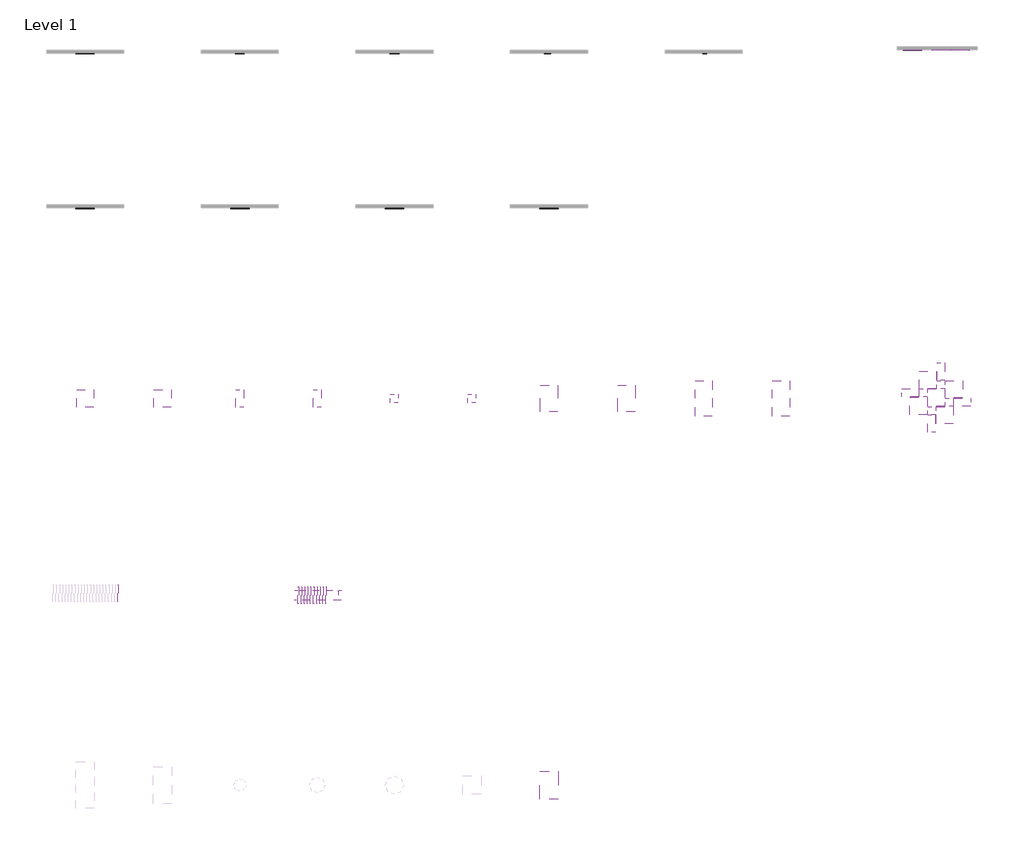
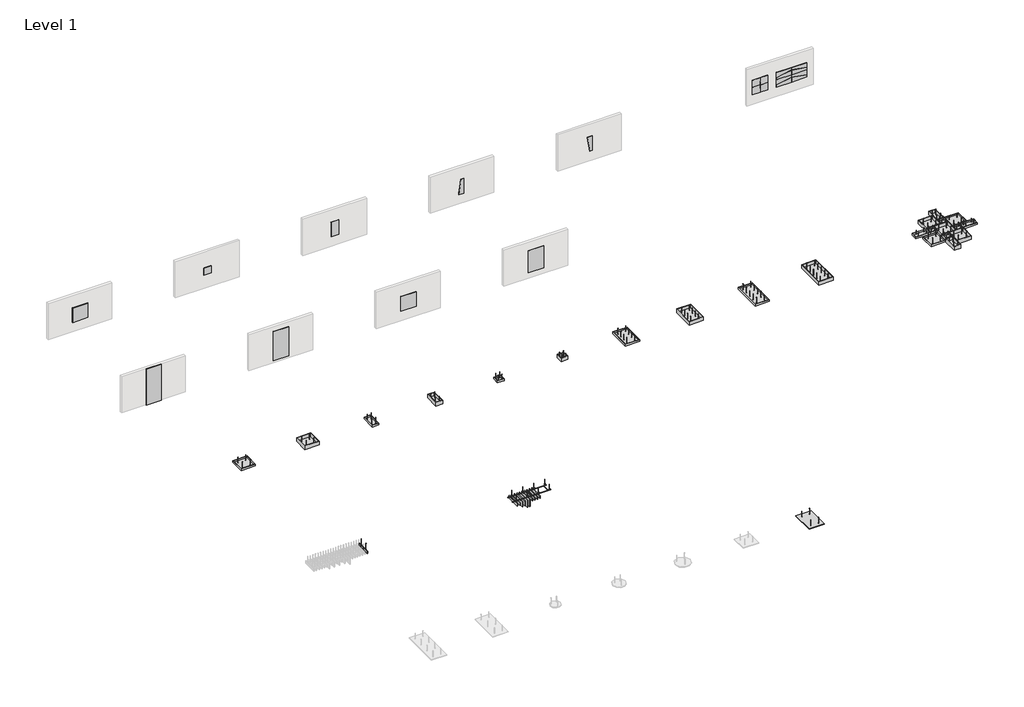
# One storey, part 2 of 2: 57 proxies.
"""IFC4 building model written with IfcOpenShell, lengths in millimetres."""

from ifc_helpers import new_model, si_unit, origin, place, context, project, spatial, transform, mapped, element, save
from components import specialty_equipment_2f9c71bf, one_72121b87, freestyle_qs_1a5b652e, freestyle_r_68592092, freestyle_tl_5bec2b6c, freestyle_tr_f36e938a, l1_61a87858, l1_92acadb2, l2_f4ee8ea0, m1_293964e8, m1_c52b9d84, m2_2ed46d6e, owa_freestyle_baffle_freestyle_l_for_s3_43a2b04f, owa_freestyle_baffle_freestyle_l_for_s3_53db9574, owa_freestyle_baffle_freestyle_m_for_s3_c351b4da, owa_freestyle_baffle_freestyle_s_ccccea6c, owa_freestyle_baffle_freestyle_s_for_s3_476cd958, owa_freestyle_baffle_s3_mounting_system_owa_freestyle_baffle_da68aab5, owa_freestyle_baffle_s3_mounting_system_owa_freestyle_baffle_664c1bcd, owa_freestyle_baffle_s3_mounting_system_owa_freestyle_baffle_da7934dc, owa_freestyle_baffle_s3_mounting_system_owa_freestyle_baffle_053d8222, s1_047c2050, s1_dd011107, s2_c28525dc, xl1_91a5b90b, xl1_b52fa71d, xl2_f6d5a700, xxl1_c829c97f, xxl1_e1fdb5e4, xxl2_2bb92154, grande_378761da, grande_xl_f58ea504, plus_e1e81a9f

model = new_model("IFC4")

# Units and contexts
model_context = context("Model", 3, world=origin())
ifc_project = project(units=[si_unit("LENGTHUNIT", "METRE", prefix="MILLI")], contexts=[model_context])

# Site, building, storey
site = spatial("IfcSite", under=ifc_project)
building = spatial("IfcBuilding", under=site)
storey = spatial("IfcBuildingStorey", under=building, Name="Level 1", Elevation=0.0)

# Proxies
placement = place(None, origin())
specialty_equipment_shape = specialty_equipment_2f9c71bf(model_context)
element("IfcBuildingElementProxy", 1, Name="OWA Selecta : Selecta plus", ObjectType="OWA Selecta : Selecta plus", at=placement, inside=storey, context=model_context, shape_type="MappedRepresentation", body=[
    mapped(specialty_equipment_shape, transform((32612.2416021, -19326.8850129, 2850.0), x_axis=(0.0, -1.0, 0.0), y_axis=(-1.0, 0.0, 0.0), z_axis=(0.0, 0.0, -1.0))),
])
one_shape = one_72121b87(model_context)
element("IfcBuildingElementProxy", 2, Name="OWA FreeStyle wall absorber : FreeStyle Q", ObjectType="OWA FreeStyle wall absorber : FreeStyle Q", at=placement, inside=storey, context=model_context, shape_type="MappedRepresentation", body=[
    mapped(one_shape, transform((3045.7416021, 28426.6149871, 1400.0), x_axis=(1.0, 0.0, 0.0), y_axis=(0.0, 0.0, 1.0), z_axis=(0.0, -1.0, 0.0))),
])
freestyle_qs_shape = freestyle_qs_1a5b652e(model_context)
element("IfcBuildingElementProxy", 3, Name="OWA FreeStyle wall absorber : FreeStyle QS", ObjectType="OWA FreeStyle wall absorber : FreeStyle QS", at=placement, inside=storey, context=model_context, shape_type="MappedRepresentation", body=[
    mapped(freestyle_qs_shape, transform((13045.7416021, 28426.6149871, 1400.0), x_axis=(1.0, 0.0, 0.0), y_axis=(0.0, 0.0, 1.0), z_axis=(0.0, -1.0, 0.0))),
])
element("IfcBuildingElementProxy", 4, Name="OWA FreeStyle wall absorber : FreeStyle QS", ObjectType="OWA FreeStyle wall absorber : FreeStyle QS", at=placement, inside=storey, context=model_context, shape_type="MappedRepresentation", body=[
    mapped(freestyle_qs_shape, transform((56245.7416021, 28666.6149871, 1122.9604097), x_axis=(1.0, 0.0, 0.0), y_axis=(0.0, 0.0, 1.0), z_axis=(0.0, -1.0, 0.0))),
])
element("IfcBuildingElementProxy", 5, Name="OWA FreeStyle wall absorber : FreeStyle QS", ObjectType="OWA FreeStyle wall absorber : FreeStyle QS", at=placement, inside=storey, context=model_context, shape_type="MappedRepresentation", body=[
    mapped(freestyle_qs_shape, transform((55378.7416021, 28666.6149871, 1722.9604097), x_axis=(-1.0, 0.0, 0.0), y_axis=(0.0, 0.0, -1.0), z_axis=(0.0, -1.0, 0.0))),
])
element("IfcBuildingElementProxy", 6, Name="OWA FreeStyle wall absorber : FreeStyle QS", ObjectType="OWA FreeStyle wall absorber : FreeStyle QS", at=placement, inside=storey, context=model_context, shape_type="MappedRepresentation", body=[
    mapped(freestyle_qs_shape, transform((55978.7416021, 28666.6149871, 1122.9604097), x_axis=(-1.0, 0.0, 0.0), y_axis=(0.0, 0.0, -1.0), z_axis=(0.0, -1.0, 0.0))),
])
element("IfcBuildingElementProxy", 7, Name="OWA FreeStyle wall absorber : FreeStyle QS", ObjectType="OWA FreeStyle wall absorber : FreeStyle QS", at=placement, inside=storey, context=model_context, shape_type="MappedRepresentation", body=[
    mapped(freestyle_qs_shape, transform((56845.7416021, 28666.6149871, 1722.9604097), x_axis=(1.0, 0.0, 0.0), y_axis=(0.0, 0.0, 1.0), z_axis=(0.0, -1.0, 0.0))),
])
freestyle_r_shape = freestyle_r_68592092(model_context)
element("IfcBuildingElementProxy", 8, Name="OWA FreeStyle wall absorber : FreeStyle R", ObjectType="OWA FreeStyle wall absorber : FreeStyle R", at=placement, inside=storey, context=model_context, shape_type="MappedRepresentation", body=[
    mapped(freestyle_r_shape, transform((23045.7416021, 28426.6149871, 1400.0), x_axis=(1.0, 0.0, 0.0), y_axis=(0.0, 0.0, 1.0), z_axis=(0.0, -1.0, 0.0))),
])
freestyle_tl_shape = freestyle_tl_5bec2b6c(model_context)
element("IfcBuildingElementProxy", 9, Name="OWA FreeStyle wall absorber : FreeStyle TL", ObjectType="OWA FreeStyle wall absorber : FreeStyle TL", at=placement, inside=storey, context=model_context, shape_type="MappedRepresentation", body=[
    mapped(freestyle_tl_shape, transform((33045.7416021, 28426.6149871, 1400.0), x_axis=(1.0, 0.0, 0.0), y_axis=(0.0, 0.0, 1.0), z_axis=(0.0, -1.0, 0.0))),
])
element("IfcBuildingElementProxy", 10, Name="OWA FreeStyle wall absorber : FreeStyle TL", ObjectType="OWA FreeStyle wall absorber : FreeStyle TL", at=placement, inside=storey, context=model_context, shape_type="MappedRepresentation", body=[
    mapped(freestyle_tl_shape, transform((59192.2416021, 28666.6149871, 1059.123501), x_axis=(0.0, 0.0, -1.0), y_axis=(1.0, 0.0, 0.0), z_axis=(0.0, -1.0, 0.0))),
])
element("IfcBuildingElementProxy", 11, Name="OWA FreeStyle wall absorber : FreeStyle TL", ObjectType="OWA FreeStyle wall absorber : FreeStyle TL", at=placement, inside=storey, context=model_context, shape_type="MappedRepresentation", body=[
    mapped(freestyle_tl_shape, transform((59192.2416021, 28666.6149871, 2326.123501), x_axis=(0.0, 0.0, 1.0), y_axis=(-1.0, 0.0, 0.0), z_axis=(0.0, -1.0, 0.0))),
])
element("IfcBuildingElementProxy", 12, Name="OWA FreeStyle wall absorber : FreeStyle TL", ObjectType="OWA FreeStyle wall absorber : FreeStyle TL", at=placement, inside=storey, context=model_context, shape_type="MappedRepresentation", body=[
    mapped(freestyle_tl_shape, transform((59192.2416021, 28666.6149871, 1726.123501), x_axis=(0.0, 0.0, 1.0), y_axis=(-1.0, 0.0, 0.0), z_axis=(0.0, -1.0, 0.0))),
])
element("IfcBuildingElementProxy", 13, Name="OWA FreeStyle wall absorber : FreeStyle TL", ObjectType="OWA FreeStyle wall absorber : FreeStyle TL", at=placement, inside=storey, context=model_context, shape_type="MappedRepresentation", body=[
    mapped(freestyle_tl_shape, transform((59192.2416021, 28666.6149871, 459.123501), x_axis=(0.0, 0.0, -1.0), y_axis=(1.0, 0.0, 0.0), z_axis=(0.0, -1.0, 0.0))),
])
freestyle_tr_shape = freestyle_tr_f36e938a(model_context)
element("IfcBuildingElementProxy", 14, Name="OWA FreeStyle wall absorber : FreeStyle TR", ObjectType="OWA FreeStyle wall absorber : FreeStyle TR", at=placement, inside=storey, context=model_context, shape_type="MappedRepresentation", body=[
    mapped(freestyle_tr_shape, transform((43045.7416021, 28426.6149871, 1400.0), x_axis=(1.0, 0.0, 0.0), y_axis=(0.0, 0.0, 1.0), z_axis=(0.0, -1.0, 0.0))),
])
element("IfcBuildingElementProxy", 15, Name="OWA FreeStyle wall absorber : FreeStyle TR", ObjectType="OWA FreeStyle wall absorber : FreeStyle TR", at=placement, inside=storey, context=model_context, shape_type="MappedRepresentation", body=[
    mapped(freestyle_tr_shape, transform((57992.2416021, 28666.6149871, 559.123501), x_axis=(0.0, 0.0, -1.0), y_axis=(1.0, 0.0, 0.0), z_axis=(0.0, -1.0, 0.0))),
])
element("IfcBuildingElementProxy", 16, Name="OWA FreeStyle wall absorber : FreeStyle TR", ObjectType="OWA FreeStyle wall absorber : FreeStyle TR", at=placement, inside=storey, context=model_context, shape_type="MappedRepresentation", body=[
    mapped(freestyle_tr_shape, transform((57992.2416021, 28666.6149871, 2226.123501), x_axis=(0.0, 0.0, 1.0), y_axis=(-1.0, 0.0, 0.0), z_axis=(0.0, -1.0, 0.0))),
])
element("IfcBuildingElementProxy", 17, Name="OWA FreeStyle wall absorber : FreeStyle TR", ObjectType="OWA FreeStyle wall absorber : FreeStyle TR", at=placement, inside=storey, context=model_context, shape_type="MappedRepresentation", body=[
    mapped(freestyle_tr_shape, transform((57992.2416021, 28666.6149871, 1159.123501), x_axis=(0.0, 0.0, -1.0), y_axis=(1.0, 0.0, 0.0), z_axis=(0.0, -1.0, 0.0))),
])
element("IfcBuildingElementProxy", 18, Name="OWA FreeStyle wall absorber : FreeStyle TR", ObjectType="OWA FreeStyle wall absorber : FreeStyle TR", at=placement, inside=storey, context=model_context, shape_type="MappedRepresentation", body=[
    mapped(freestyle_tr_shape, transform((57992.2416021, 28666.6149871, 1626.123501), x_axis=(0.0, 0.0, 1.0), y_axis=(-1.0, 0.0, 0.0), z_axis=(0.0, -1.0, 0.0))),
])
l1_shape = l1_61a87858(model_context)
element("IfcBuildingElementProxy", 19, Name="OWA Corpus : L1", ObjectType="OWA Corpus : L1", at=placement, inside=storey, context=model_context, shape_type="MappedRepresentation", body=[
    mapped(l1_shape, transform((2612.2416021, 5673.1149871, 2850.0), x_axis=(0.0, -1.0, 0.0), y_axis=(-1.0, 0.0, 0.0), z_axis=(0.0, 0.0, -1.0))),
])
element("IfcBuildingElementProxy", 20, Name="OWA Corpus : L1", ObjectType="OWA Corpus : L1", at=placement, inside=storey, context=model_context, shape_type="MappedRepresentation", body=[
    mapped(l1_shape, transform((56507.2416021, 6060.1149871, 2850.0), x_axis=(0.0, 1.0, 0.0), y_axis=(1.0, 0.0, 0.0), z_axis=(0.0, 0.0, -1.0))),
])
l1_2_shape = l1_92acadb2(model_context)
element("IfcBuildingElementProxy", 21, Name="OWA Corpus : L1", ObjectType="OWA Corpus : L1", at=placement, inside=storey, context=model_context, shape_type="MappedRepresentation", body=[
    mapped(l1_2_shape, transform((58787.2416021, 7140.1149871, 2850.0), x_axis=(0.0, 1.0, 0.0), y_axis=(1.0, 0.0, 0.0), z_axis=(0.0, 0.0, -1.0))),
])
l2_shape = l2_f4ee8ea0(model_context)
element("IfcBuildingElementProxy", 22, Name="OWA Corpus : L2", ObjectType="OWA Corpus : L2", at=placement, inside=storey, context=model_context, shape_type="MappedRepresentation", body=[
    mapped(l2_shape, transform((7612.2416021, 5673.1149871, 2850.0), x_axis=(0.0, -1.0, 0.0), y_axis=(-1.0, 0.0, 0.0), z_axis=(0.0, 0.0, -1.0))),
])
element("IfcBuildingElementProxy", 23, Name="OWA Corpus : L2", ObjectType="OWA Corpus : L2", at=placement, inside=storey, context=model_context, shape_type="MappedRepresentation", body=[
    mapped(l2_shape, transform((57647.2416021, 6600.1149871, 2850.0), x_axis=(0.0, 1.0, 0.0), y_axis=(1.0, 0.0, 0.0), z_axis=(0.0, 0.0, -1.0))),
])
element("IfcBuildingElementProxy", 24, Name="OWA Corpus : L2", ObjectType="OWA Corpus : L2", at=placement, inside=storey, context=model_context, shape_type="MappedRepresentation", body=[
    mapped(l2_shape, transform((57107.2416021, 7740.1149871, 2850.0), x_axis=(0.0, 1.0, 0.0), y_axis=(1.0, 0.0, 0.0), z_axis=(0.0, 0.0, -1.0))),
])
element("IfcBuildingElementProxy", 25, Name="OWA Corpus : L2", ObjectType="OWA Corpus : L2", at=placement, inside=storey, context=model_context, shape_type="MappedRepresentation", body=[
    mapped(l2_shape, transform((58187.2416021, 5460.1149871, 2850.0), x_axis=(0.0, 1.0, 0.0), y_axis=(1.0, 0.0, 0.0), z_axis=(0.0, 0.0, -1.0))),
])
m1_shape = m1_293964e8(model_context)
element("IfcBuildingElementProxy", 26, Name="OWA Corpus : M1", ObjectType="OWA Corpus : M1", at=placement, inside=storey, context=model_context, shape_type="MappedRepresentation", body=[
    mapped(m1_shape, transform((12612.2416021, 5673.1149871, 2850.0), x_axis=(0.0, -1.0, 0.0), y_axis=(-1.0, 0.0, 0.0), z_axis=(0.0, 0.0, -1.0))),
])
m1_2_shape = m1_c52b9d84(model_context)
element("IfcBuildingElementProxy", 27, Name="OWA Corpus : M1", ObjectType="OWA Corpus : M1", at=placement, inside=storey, context=model_context, shape_type="MappedRepresentation", body=[
    mapped(m1_2_shape, transform((59760.7416021, 5866.6149871, 2850.0), x_axis=(1.0, 0.0, 0.0), y_axis=(0.0, -1.0, 0.0), z_axis=(0.0, 0.0, -1.0))),
])
element("IfcBuildingElementProxy", 28, Name="OWA Corpus : M1", ObjectType="OWA Corpus : M1", at=placement, inside=storey, context=model_context, shape_type="MappedRepresentation", body=[
    mapped(m1_2_shape, transform((55533.7416021, 6466.6149871, 2850.0), x_axis=(-1.0, 0.0, 0.0), y_axis=(0.0, 1.0, 0.0), z_axis=(0.0, 0.0, -1.0))),
])
m2_shape = m2_2ed46d6e(model_context)
element("IfcBuildingElementProxy", 29, Name="OWA Corpus : M2", ObjectType="OWA Corpus : M2", at=placement, inside=storey, context=model_context, shape_type="MappedRepresentation", body=[
    mapped(m2_shape, transform((17612.2416021, 5673.1149871, 2850.0), x_axis=(0.0, -1.0, 0.0), y_axis=(-1.0, 0.0, 0.0), z_axis=(0.0, 0.0, -1.0))),
])
element("IfcBuildingElementProxy", 30, Name="OWA Corpus : M2", ObjectType="OWA Corpus : M2", at=placement, inside=storey, context=model_context, shape_type="MappedRepresentation", body=[
    mapped(m2_shape, transform((57947.2416021, 8280.1149871, 2850.0), x_axis=(0.0, 1.0, 0.0), y_axis=(1.0, 0.0, 0.0), z_axis=(0.0, 0.0, -1.0))),
])
element("IfcBuildingElementProxy", 31, Name="OWA Corpus : M2", ObjectType="OWA Corpus : M2", at=placement, inside=storey, context=model_context, shape_type="MappedRepresentation", body=[
    mapped(m2_shape, transform((57347.2416021, 4920.1149871, 2850.0), x_axis=(0.0, 1.0, 0.0), y_axis=(1.0, 0.0, 0.0), z_axis=(0.0, 0.0, -1.0))),
])
owa_freestyle_baffle_freestyle_l_for_s3_shape = owa_freestyle_baffle_freestyle_l_for_s3_43a2b04f(model_context)
owa_freestyle_baffle_freestyle_l_for_s3_2_shape = owa_freestyle_baffle_freestyle_l_for_s3_53db9574(model_context)
element("IfcBuildingElementProxy", 32, Name="OWA FreeStyle Baffle : FreeStyle L for S3", ObjectType="OWA FreeStyle Baffle : FreeStyle L for S3", at=placement, inside=storey, context=model_context, shape_type="MappedRepresentation", body=[
    mapped(owa_freestyle_baffle_freestyle_l_for_s3_shape, transform((17193.0169617, -7052.6381787, 2350.0), x_axis=(0.0, -1.0, 0.0), y_axis=(-1.0, 0.0, 0.0), z_axis=(0.0, 0.0, -1.0))),
    mapped(owa_freestyle_baffle_freestyle_l_for_s3_2_shape, transform((17193.0169617, -7052.6381787, 2350.0), x_axis=(0.0, -1.0, 0.0), y_axis=(-1.0, 0.0, 0.0), z_axis=(0.0, 0.0, -1.0))),
])
element("IfcBuildingElementProxy", 33, Name="OWA FreeStyle Baffle : FreeStyle L for S3", ObjectType="OWA FreeStyle Baffle : FreeStyle L for S3", at=placement, inside=storey, context=model_context, shape_type="MappedRepresentation", body=[
    mapped(owa_freestyle_baffle_freestyle_l_for_s3_shape, transform((17393.0169617, -7052.6381787, 2350.0), x_axis=(0.0, -1.0, 0.0), y_axis=(-1.0, 0.0, 0.0), z_axis=(0.0, 0.0, -1.0))),
    mapped(owa_freestyle_baffle_freestyle_l_for_s3_2_shape, transform((17393.0169617, -7052.6381787, 2350.0), x_axis=(0.0, -1.0, 0.0), y_axis=(-1.0, 0.0, 0.0), z_axis=(0.0, 0.0, -1.0))),
])
owa_freestyle_baffle_freestyle_m_for_s3_shape = owa_freestyle_baffle_freestyle_m_for_s3_c351b4da(model_context)
element("IfcBuildingElementProxy", 34, Name="OWA FreeStyle Baffle : FreeStyle M for S3", ObjectType="OWA FreeStyle Baffle : FreeStyle M for S3", at=placement, inside=storey, context=model_context, shape_type="MappedRepresentation", body=[
    mapped(owa_freestyle_baffle_freestyle_l_for_s3_shape, transform((16793.0169617, -7052.6381787, 2350.0), x_axis=(0.0, -1.0, 0.0), y_axis=(-1.0, 0.0, 0.0), z_axis=(0.0, 0.0, -1.0))),
    mapped(owa_freestyle_baffle_freestyle_m_for_s3_shape, transform((16793.0169617, -7052.6381787, 2350.0), x_axis=(0.0, -1.0, 0.0), y_axis=(-1.0, 0.0, 0.0), z_axis=(0.0, 0.0, -1.0))),
])
element("IfcBuildingElementProxy", 35, Name="OWA FreeStyle Baffle : FreeStyle M for S3", ObjectType="OWA FreeStyle Baffle : FreeStyle M for S3", at=placement, inside=storey, context=model_context, shape_type="MappedRepresentation", body=[
    mapped(owa_freestyle_baffle_freestyle_l_for_s3_shape, transform((16993.0169617, -7052.6381787, 2350.0), x_axis=(0.0, -1.0, 0.0), y_axis=(-1.0, 0.0, 0.0), z_axis=(0.0, 0.0, -1.0))),
    mapped(owa_freestyle_baffle_freestyle_m_for_s3_shape, transform((16993.0169617, -7052.6381787, 2350.0), x_axis=(0.0, -1.0, 0.0), y_axis=(-1.0, 0.0, 0.0), z_axis=(0.0, 0.0, -1.0))),
])
owa_freestyle_baffle_freestyle_s_shape = owa_freestyle_baffle_freestyle_s_ccccea6c(model_context)
element("IfcBuildingElementProxy", 36, Name="OWA FreeStyle Baffle : FreeStyle S", ObjectType="OWA FreeStyle Baffle : FreeStyle S", at=placement, inside=storey, context=model_context, shape_type="MappedRepresentation", body=[
    mapped(owa_freestyle_baffle_freestyle_s_shape, transform((4735.8983303, -6039.8850129, 2850.0), x_axis=(0.0, 1.0, 0.0), y_axis=(1.0, 0.0, 0.0), z_axis=(0.0, 0.0, -1.0))),
])
owa_freestyle_baffle_freestyle_s_for_s3_shape = owa_freestyle_baffle_freestyle_s_for_s3_476cd958(model_context)
element("IfcBuildingElementProxy", 37, Name="OWA FreeStyle Baffle : FreeStyle S for S3", ObjectType="OWA FreeStyle Baffle : FreeStyle S for S3", at=placement, inside=storey, context=model_context, shape_type="MappedRepresentation", body=[
    mapped(owa_freestyle_baffle_freestyle_l_for_s3_shape, transform((16393.0169617, -7052.6381787, 2350.0), x_axis=(0.0, -1.0, 0.0), y_axis=(-1.0, 0.0, 0.0), z_axis=(0.0, 0.0, -1.0))),
    mapped(owa_freestyle_baffle_freestyle_s_for_s3_shape, transform((16393.0169617, -7052.6381787, 2350.0), x_axis=(0.0, -1.0, 0.0), y_axis=(-1.0, 0.0, 0.0), z_axis=(0.0, 0.0, -1.0))),
])
element("IfcBuildingElementProxy", 38, Name="OWA FreeStyle Baffle : FreeStyle S for S3", ObjectType="OWA FreeStyle Baffle : FreeStyle S for S3", at=placement, inside=storey, context=model_context, shape_type="MappedRepresentation", body=[
    mapped(owa_freestyle_baffle_freestyle_l_for_s3_shape, transform((16593.0169617, -7052.6381787, 2350.0), x_axis=(0.0, -1.0, 0.0), y_axis=(-1.0, 0.0, 0.0), z_axis=(0.0, 0.0, -1.0))),
    mapped(owa_freestyle_baffle_freestyle_s_for_s3_shape, transform((16593.0169617, -7052.6381787, 2350.0), x_axis=(0.0, -1.0, 0.0), y_axis=(-1.0, 0.0, 0.0), z_axis=(0.0, 0.0, -1.0))),
])
element("IfcBuildingElementProxy", 39, Name="OWA FreeStyle Baffle : FreeStyle S for S3", ObjectType="OWA FreeStyle Baffle : FreeStyle S for S3", at=placement, inside=storey, context=model_context, shape_type="MappedRepresentation", body=[
    mapped(owa_freestyle_baffle_freestyle_l_for_s3_shape, transform((17593.0169617, -7052.6381787, 2350.0), x_axis=(0.0, -1.0, 0.0), y_axis=(-1.0, 0.0, 0.0), z_axis=(0.0, 0.0, -1.0))),
    mapped(owa_freestyle_baffle_freestyle_s_for_s3_shape, transform((17593.0169617, -7052.6381787, 2350.0), x_axis=(0.0, -1.0, 0.0), y_axis=(-1.0, 0.0, 0.0), z_axis=(0.0, 0.0, -1.0))),
])
element("IfcBuildingElementProxy", 40, Name="OWA FreeStyle Baffle : FreeStyle S for S3", ObjectType="OWA FreeStyle Baffle : FreeStyle S for S3", at=placement, inside=storey, context=model_context, shape_type="MappedRepresentation", body=[
    mapped(owa_freestyle_baffle_freestyle_l_for_s3_shape, transform((17793.0169617, -7052.6381787, 2350.0), x_axis=(0.0, -1.0, 0.0), y_axis=(-1.0, 0.0, 0.0), z_axis=(0.0, 0.0, -1.0))),
    mapped(owa_freestyle_baffle_freestyle_s_for_s3_shape, transform((17793.0169617, -7052.6381787, 2350.0), x_axis=(0.0, -1.0, 0.0), y_axis=(-1.0, 0.0, 0.0), z_axis=(0.0, 0.0, -1.0))),
])
element("IfcBuildingElementProxy", 41, Name="OWA FreeStyle Baffle : FreeStyle S for S3", ObjectType="OWA FreeStyle Baffle : FreeStyle S for S3", at=placement, inside=storey, context=model_context, shape_type="MappedRepresentation", body=[
    mapped(owa_freestyle_baffle_freestyle_l_for_s3_shape, transform((17993.0169617, -7052.6381787, 2350.0), x_axis=(0.0, -1.0, 0.0), y_axis=(-1.0, 0.0, 0.0), z_axis=(0.0, 0.0, -1.0))),
    mapped(owa_freestyle_baffle_freestyle_s_for_s3_shape, transform((17993.0169617, -7052.6381787, 2350.0), x_axis=(0.0, -1.0, 0.0), y_axis=(-1.0, 0.0, 0.0), z_axis=(0.0, 0.0, -1.0))),
])
element("IfcBuildingElementProxy", 42, Name="OWA FreeStyle Baffle : FreeStyle S for S3", ObjectType="OWA FreeStyle Baffle : FreeStyle S for S3", at=placement, inside=storey, context=model_context, shape_type="MappedRepresentation", body=[
    mapped(owa_freestyle_baffle_freestyle_l_for_s3_shape, transform((18193.0169617, -7052.6381787, 2350.0), x_axis=(0.0, -1.0, 0.0), y_axis=(-1.0, 0.0, 0.0), z_axis=(0.0, 0.0, -1.0))),
    mapped(owa_freestyle_baffle_freestyle_s_for_s3_shape, transform((18193.0169617, -7052.6381787, 2350.0), x_axis=(0.0, -1.0, 0.0), y_axis=(-1.0, 0.0, 0.0), z_axis=(0.0, 0.0, -1.0))),
])
owa_freestyle_baffle_s3_mounting_system_owa_freestyle_baffle_shape = owa_freestyle_baffle_s3_mounting_system_owa_freestyle_baffle_da68aab5(model_context)
owa_freestyle_baffle_s3_mounting_system_owa_freestyle_baffle_2_shape = owa_freestyle_baffle_s3_mounting_system_owa_freestyle_baffle_664c1bcd(model_context)
owa_freestyle_baffle_s3_mounting_system_owa_freestyle_baffle_3_shape = owa_freestyle_baffle_s3_mounting_system_owa_freestyle_baffle_da7934dc(model_context)
owa_freestyle_baffle_s3_mounting_system_owa_freestyle_baffle_4_shape = owa_freestyle_baffle_s3_mounting_system_owa_freestyle_baffle_053d8222(model_context)
element("IfcBuildingElementProxy", 43, Name="OWA FreeStyle Baffle S3 Mounting System : OWA FreeStyle Baffle S3 Mounting System", ObjectType="OWA FreeStyle Baffle S3 Mounting System : OWA FreeStyle Baffle S3 Mounting System", at=placement, inside=storey, context=model_context, shape_type="MappedRepresentation", body=[
    mapped(owa_freestyle_baffle_s3_mounting_system_owa_freestyle_baffle_shape, transform((16156.1674652, -7052.6381787, 2850.0), x_axis=(0.0, -1.0, 0.0), y_axis=(-1.0, 0.0, 0.0), z_axis=(0.0, 0.0, -1.0))),
    mapped(owa_freestyle_baffle_s3_mounting_system_owa_freestyle_baffle_2_shape, transform((16156.1674652, -7052.6381787, 2850.0), x_axis=(0.0, -1.0, 0.0), y_axis=(-1.0, 0.0, 0.0), z_axis=(0.0, 0.0, -1.0))),
    mapped(owa_freestyle_baffle_s3_mounting_system_owa_freestyle_baffle_3_shape, transform((16156.1674652, -7052.6381787, 2850.0), x_axis=(0.0, -1.0, 0.0), y_axis=(-1.0, 0.0, 0.0), z_axis=(0.0, 0.0, -1.0))),
    mapped(owa_freestyle_baffle_s3_mounting_system_owa_freestyle_baffle_4_shape, transform((16156.1674652, -7052.6381787, 2850.0), x_axis=(0.0, -1.0, 0.0), y_axis=(-1.0, 0.0, 0.0), z_axis=(0.0, 0.0, -1.0))),
])
s1_shape = s1_047c2050(model_context)
element("IfcBuildingElementProxy", 44, Name="OWA Corpus : S1", ObjectType="OWA Corpus : S1", at=placement, inside=storey, context=model_context, shape_type="MappedRepresentation", body=[
    mapped(s1_shape, transform((22612.2416021, 5673.1149871, 2850.0), x_axis=(0.0, -1.0, 0.0), y_axis=(-1.0, 0.0, 0.0), z_axis=(0.0, 0.0, -1.0))),
])
s1_2_shape = s1_dd011107(model_context)
element("IfcBuildingElementProxy", 45, Name="OWA Corpus : S1", ObjectType="OWA Corpus : S1", at=placement, inside=storey, context=model_context, shape_type="MappedRepresentation", body=[
    mapped(s1_2_shape, transform((58053.7416021, 5866.6149871, 2850.0), x_axis=(-1.0, 0.0, 0.0), y_axis=(0.0, 1.0, 0.0), z_axis=(0.0, 0.0, -1.0))),
])
element("IfcBuildingElementProxy", 46, Name="OWA Corpus : S1", ObjectType="OWA Corpus : S1", at=placement, inside=storey, context=model_context, shape_type="MappedRepresentation", body=[
    mapped(s1_2_shape, transform((56807.2416021, 6900.1149871, 2850.0), x_axis=(0.0, 1.0, 0.0), y_axis=(1.0, 0.0, 0.0), z_axis=(0.0, 0.0, -1.0))),
])
element("IfcBuildingElementProxy", 47, Name="OWA Corpus : S1", ObjectType="OWA Corpus : S1", at=placement, inside=storey, context=model_context, shape_type="MappedRepresentation", body=[
    mapped(s1_2_shape, transform((57947.2416021, 7440.1149871, 2850.0), x_axis=(0.0, 1.0, 0.0), y_axis=(1.0, 0.0, 0.0), z_axis=(0.0, 0.0, -1.0))),
])
element("IfcBuildingElementProxy", 48, Name="OWA Corpus : S1", ObjectType="OWA Corpus : S1", at=placement, inside=storey, context=model_context, shape_type="MappedRepresentation", body=[
    mapped(s1_2_shape, transform((57347.2416021, 5760.1149871, 2850.0), x_axis=(0.0, 1.0, 0.0), y_axis=(1.0, 0.0, 0.0), z_axis=(0.0, 0.0, -1.0))),
])
s2_shape = s2_c28525dc(model_context)
element("IfcBuildingElementProxy", 49, Name="OWA Corpus : S2", ObjectType="OWA Corpus : S2", at=placement, inside=storey, context=model_context, shape_type="MappedRepresentation", body=[
    mapped(s2_shape, transform((27612.2416021, 5673.1149871, 2850.0), x_axis=(0.0, -1.0, 0.0), y_axis=(-1.0, 0.0, 0.0), z_axis=(0.0, 0.0, -1.0))),
])
xl1_shape = xl1_91a5b90b(model_context)
xl1_2_shape = xl1_b52fa71d(model_context)
element("IfcBuildingElementProxy", 50, Name="OWA Corpus : XL1", ObjectType="OWA Corpus : XL1", at=placement, inside=storey, context=model_context, shape_type="MappedRepresentation", body=[
    mapped(xl1_shape, transform((32612.2416021, 5673.1149871, 2850.0), x_axis=(0.0, -1.0, 0.0), y_axis=(-1.0, 0.0, 0.0), z_axis=(0.0, 0.0, -1.0))),
    mapped(xl1_2_shape, transform((32612.2416021, 5673.1149871, 2850.0), x_axis=(0.0, -1.0, 0.0), y_axis=(-1.0, 0.0, 0.0), z_axis=(0.0, 0.0, -1.0))),
])
xl2_shape = xl2_f6d5a700(model_context)
element("IfcBuildingElementProxy", 51, Name="OWA Corpus : XL2", ObjectType="OWA Corpus : XL2", at=placement, inside=storey, context=model_context, shape_type="MappedRepresentation", body=[
    mapped(xl1_shape, transform((37612.2416021, 5673.1149871, 2850.0), x_axis=(0.0, -1.0, 0.0), y_axis=(-1.0, 0.0, 0.0), z_axis=(0.0, 0.0, -1.0))),
    mapped(xl2_shape, transform((37612.2416021, 5673.1149871, 2850.0), x_axis=(0.0, -1.0, 0.0), y_axis=(-1.0, 0.0, 0.0), z_axis=(0.0, 0.0, -1.0))),
])
xxl1_shape = xxl1_c829c97f(model_context)
xxl1_2_shape = xxl1_e1fdb5e4(model_context)
element("IfcBuildingElementProxy", 52, Name="OWA Corpus : XXL1", ObjectType="OWA Corpus : XXL1", at=placement, inside=storey, context=model_context, shape_type="MappedRepresentation", body=[
    mapped(xxl1_shape, transform((42612.2416021, 5673.1149871, 2850.0), x_axis=(0.0, -1.0, 0.0), y_axis=(-1.0, 0.0, 0.0), z_axis=(0.0, 0.0, -1.0))),
    mapped(xxl1_2_shape, transform((42612.2416021, 5673.1149871, 2850.0), x_axis=(0.0, -1.0, 0.0), y_axis=(-1.0, 0.0, 0.0), z_axis=(0.0, 0.0, -1.0))),
])
xxl2_shape = xxl2_2bb92154(model_context)
element("IfcBuildingElementProxy", 53, Name="OWA Corpus : XXL2", ObjectType="OWA Corpus : XXL2", at=placement, inside=storey, context=model_context, shape_type="MappedRepresentation", body=[
    mapped(xxl1_shape, transform((47612.2416021, 5673.1149871, 2850.0), x_axis=(0.0, -1.0, 0.0), y_axis=(-1.0, 0.0, 0.0), z_axis=(0.0, 0.0, -1.0))),
    mapped(xxl2_shape, transform((47612.2416021, 5673.1149871, 2850.0), x_axis=(0.0, -1.0, 0.0), y_axis=(-1.0, 0.0, 0.0), z_axis=(0.0, 0.0, -1.0))),
])
grande_shape = grande_378761da(model_context)
element("IfcBuildingElementProxy", 54, Name="OWA Creaprint : grande", ObjectType="OWA Creaprint : grande", at=placement, inside=storey, context=model_context, shape_type="MappedRepresentation", body=[
    mapped(grande_shape, transform((13045.7416021, 18426.6149871, 1400.0), x_axis=(1.0, 0.0, 0.0), y_axis=(0.0, 0.0, 1.0), z_axis=(0.0, -1.0, 0.0))),
])
grande_xl_shape = grande_xl_f58ea504(model_context)
element("IfcBuildingElementProxy", 55, Name="OWA Creaprint : grande XL", ObjectType="OWA Creaprint : grande XL", at=placement, inside=storey, context=model_context, shape_type="MappedRepresentation", body=[
    mapped(grande_xl_shape, transform((3045.7416021, 18426.6149871, 1500.0), x_axis=(1.0, 0.0, 0.0), y_axis=(0.0, 0.0, 1.0), z_axis=(0.0, -1.0, 0.0))),
])
element("IfcBuildingElementProxy", 56, Name="OWA Creaprint : one", ObjectType="OWA Creaprint : one", at=placement, inside=storey, context=model_context, shape_type="MappedRepresentation", body=[
    mapped(one_shape, transform((23045.7416021, 18426.6149871, 1400.0), x_axis=(1.0, 0.0, 0.0), y_axis=(0.0, 0.0, 1.0), z_axis=(0.0, -1.0, 0.0))),
])
plus_shape = plus_e1e81a9f(model_context)
element("IfcBuildingElementProxy", 57, Name="OWA Creaprint : plus", ObjectType="OWA Creaprint : plus", at=placement, inside=storey, context=model_context, shape_type="MappedRepresentation", body=[
    mapped(plus_shape, transform((33045.7416021, 18426.6149871, 1400.0), x_axis=(1.0, 0.0, 0.0), y_axis=(0.0, 0.0, 1.0), z_axis=(0.0, -1.0, 0.0))),
])

save(model, "model.ifc")
